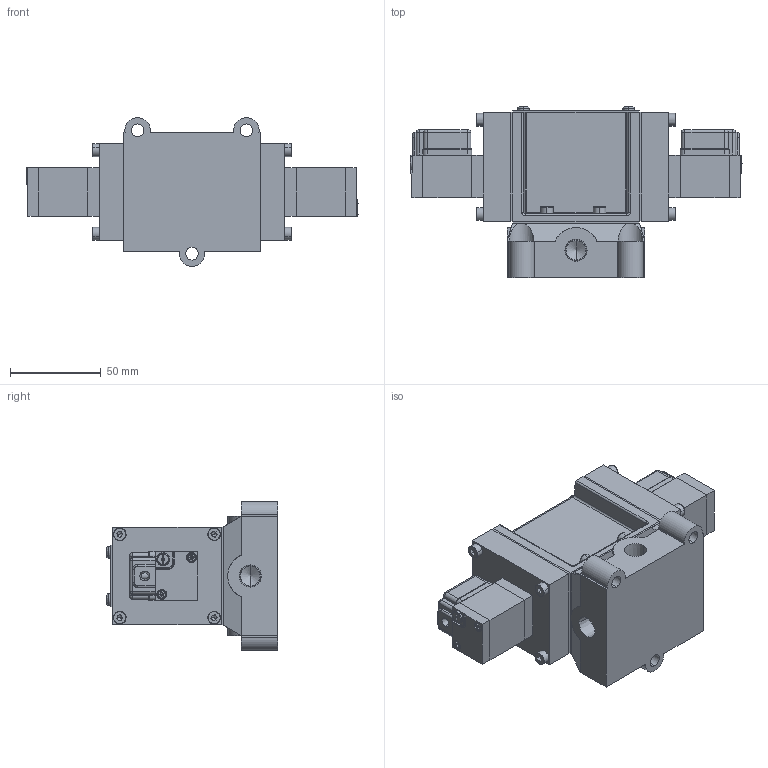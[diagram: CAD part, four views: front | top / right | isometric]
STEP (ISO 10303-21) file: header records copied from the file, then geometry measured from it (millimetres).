
FILE_DESCRIPTION (( 'STEP AP203' ), '1' );
FILE_NAME ('PMD2408#-02-#G#.STEP', '2016-03-09T06:21:18', ( 'Sam Lin' ), ( '' ), 'SwSTEP 2.0', 'SolidWorks 2013', '' );
FILE_SCHEMA (( 'CONFIG_CONTROL_DESIGN' ));
Length unit declared in the file: metre
Products named in the file (16): PM06-C3-M4_1; PMS2408-2; PM06-C4_1; PMS2408-3; PM06-C6-M3_1; PM06-C5_1; PMS2408-4; PM06-G1; PMS2408-5; PM08-MARK-2408; PMS2408-7; ISO 4762 M4 x 10; PMS2408-8; PMD2408#-02-#G#; PM06-C1_1; PMS2408-1
Assembly tree (38 placements, depth 2):
  PMD2408#-02-#G#
    PMS2408-1
    PMS2408-2
    PMS2408-3
    PMS2408-4  x2
    PMS2408-5  x2
    PMS2408-7
    PMS2408-8  x2
    PM06-C1_1  x2
    PM06-C3-M4_1  x4
    PM06-C4_1  x2
    PM06-C6-M3_1  x4
    PM06-C5_1  x2
    PM06-G1  x2
    PM08-MARK-2408
    ISO 4762 M4 x 10  x11
Bounding box: 183 x 94.35 x 82 mm (x, y, z)
Volume: 483489.3 mm3; surface area: 123403.3 mm2
Topology: 44 solids, 44 shells, 1085 faces, 2562 edges, 1561 vertices
Faces by surface type: plane 558, cylinder 249, cone 138, bspline 132, torus 8
Entity records: 17642 total; most frequent: CARTESIAN_POINT 4308, DIRECTION 2330, ORIENTED_EDGE 2242, EDGE_CURVE 1121, AXIS2_PLACEMENT_3D 846, VERTEX_POINT 709, LINE 638, VECTOR 638
